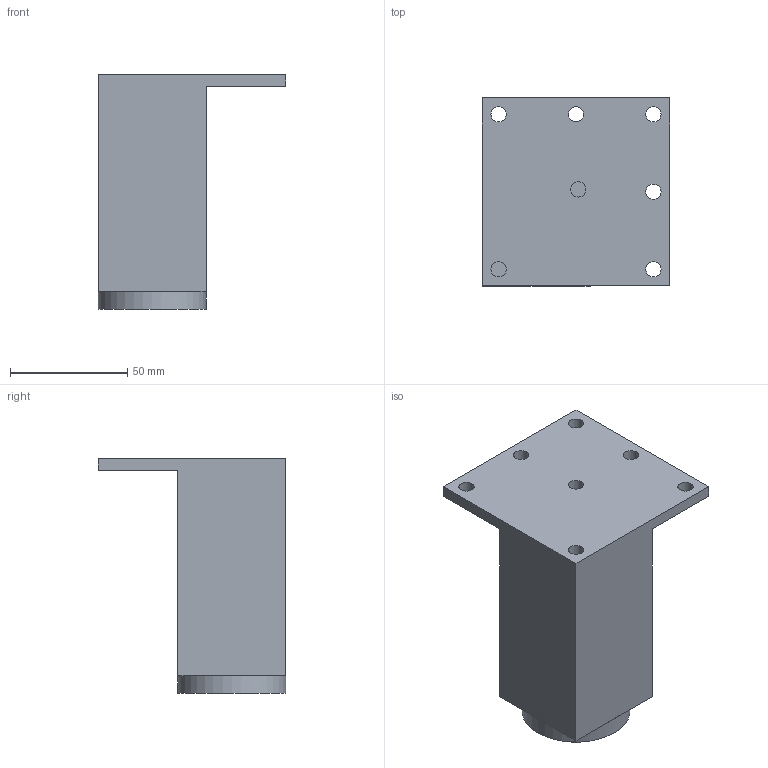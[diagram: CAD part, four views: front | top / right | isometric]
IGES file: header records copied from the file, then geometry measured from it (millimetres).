
Start section: Data from Parasolid IGES Translator 20.0.26, Copyright(c) 2006 Siemens P LM Software. All Rights Reserved.
Global section: file name: 9119543.igs; native system: By Siemens PLM Incorporated; preprocessor: XPlus GENERIC/IGES 20.0.26; author: Noname; organization: Noname; date: 20210125.170513; units: millimetre
Bounding box: 80 x 80 x 100 mm (x, y, z)
Surface area: 31966.6 mm2 (no closed solid volume)
Topology: 0 solids, 0 shells, 23 faces, 104 edges, 93 vertices
Faces by surface type: extrusion 15, revolution 8
